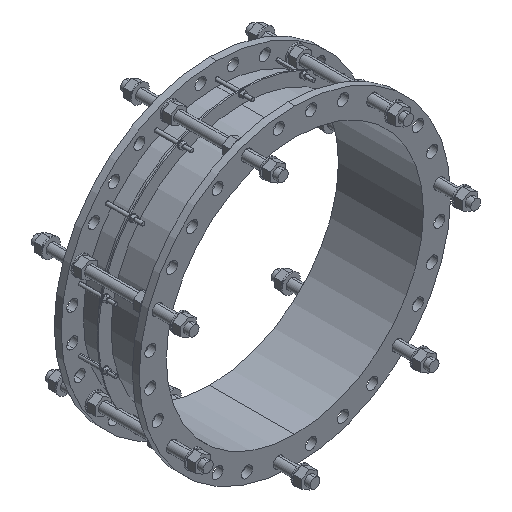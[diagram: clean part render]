
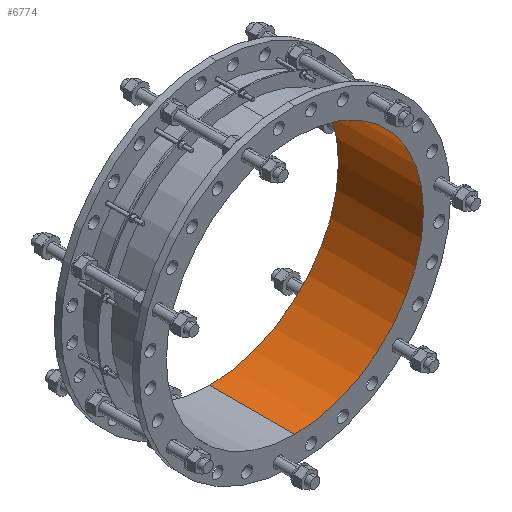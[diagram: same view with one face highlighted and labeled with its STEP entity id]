
A CAD part, isometric view. The second image highlights one B-rep face of the part: STEP entity #6774.
In plain terms, the highlighted cylindrical face has radius 464.5 mm (diameter 929 mm), a partial arc.
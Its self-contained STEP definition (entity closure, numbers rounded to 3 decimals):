
#7=DIRECTION('',(0.,-1.,0.));
#8=VECTOR('',#7,307.);
#9=CARTESIAN_POINT('',(0.,0.,-464.5));
#10=LINE('',#9,#8);
#11=CARTESIAN_POINT('',(0.,0.,0.));
#12=DIRECTION('',(0.,-1.,0.));
#13=DIRECTION('',(0.,0.,-1.));
#14=AXIS2_PLACEMENT_3D('',#11,#12,#13);
#16=DIRECTION('',(0.,-1.,0.));
#17=VECTOR('',#16,307.);
#18=CARTESIAN_POINT('',(0.,0.,464.5));
#19=LINE('',#18,#17);
#1985=CARTESIAN_POINT('',(0.,-307.,0.));
#1986=DIRECTION('',(0.,-1.,0.));
#1987=DIRECTION('',(0.,0.,-1.));
#1988=AXIS2_PLACEMENT_3D('',#1985,#1986,#1987);
#5458=CARTESIAN_POINT('',(0.,0.,-464.5));
#5459=CARTESIAN_POINT('',(0.,-307.,-464.5));
#5460=VERTEX_POINT('',#5458);
#5461=VERTEX_POINT('',#5459);
#5478=CARTESIAN_POINT('',(0.,0.,464.5));
#5479=CARTESIAN_POINT('',(0.,-307.,464.5));
#5480=VERTEX_POINT('',#5478);
#5481=VERTEX_POINT('',#5479);
#6761=CARTESIAN_POINT('',(0.,-322.35,0.));
#6762=DIRECTION('',(0.,1.,0.));
#6763=DIRECTION('',(0.,0.,-1.));
#6764=AXIS2_PLACEMENT_3D('',#6761,#6762,#6763);
#6765=CYLINDRICAL_SURFACE('',#6764,464.5);
#6766=ORIENTED_EDGE('',*,*,#6750,.F.);
#6768=ORIENTED_EDGE('',*,*,#6767,.T.);
#6769=ORIENTED_EDGE('',*,*,#6754,.T.);
#6771=ORIENTED_EDGE('',*,*,#6770,.F.);
#6772=EDGE_LOOP('',(#6766,#6768,#6769,#6771));
#6773=FACE_OUTER_BOUND('',#6772,.F.);
#6774=ADVANCED_FACE('',(#6773),#6765,.F.);
#15=CIRCLE('',#14,464.5);
#1989=CIRCLE('',#1988,464.5);
#6750=EDGE_CURVE('',#5460,#5461,#10,.T.);
#6754=EDGE_CURVE('',#5480,#5481,#19,.T.);
#6767=EDGE_CURVE('',#5460,#5480,#15,.T.);
#6770=EDGE_CURVE('',#5461,#5481,#1989,.T.);
